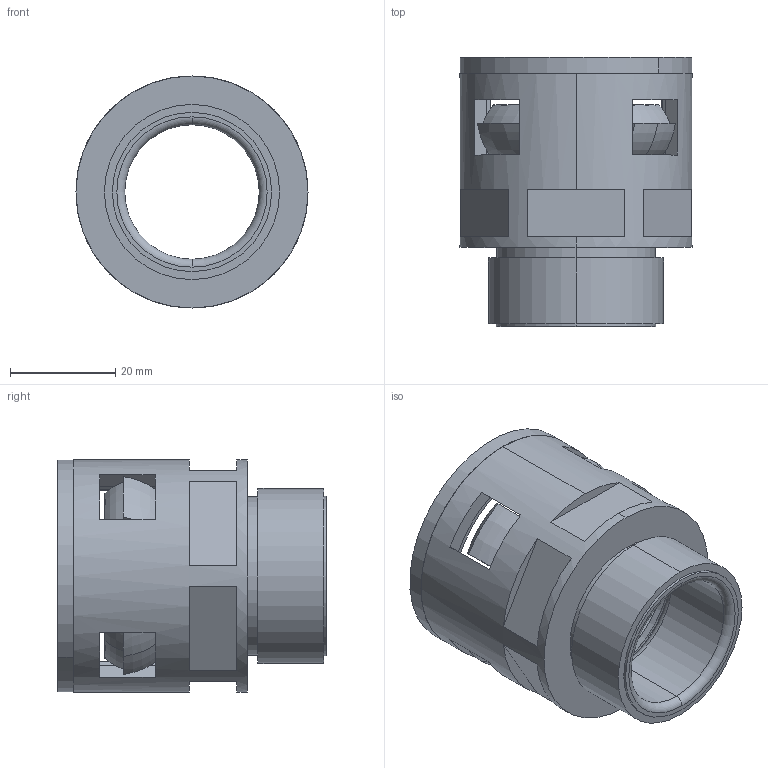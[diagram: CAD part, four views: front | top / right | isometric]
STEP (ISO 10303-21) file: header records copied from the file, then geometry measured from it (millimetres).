
FILE_DESCRIPTION (( 'STEP AP203' ), '1' );
FILE_NAME ('WQG-G1-AD34.5.STEP', '2019-12-17T07:18:20', ( '' ), ( '' ), 'SwSTEP 2.0', 'SolidWorks 2016', '' );
FILE_SCHEMA (( 'CONFIG_CONTROL_DESIGN' ));
Length unit declared in the file: millimetre
Products named in the file (4): GFD-AD34.5; WQG-G1-AD34.5; NSK-AD34.5; WQG-G1-AD34.5-01
Assembly tree (3 placements, depth 2):
  WQG-G1-AD34.5
    WQG-G1-AD34.5-01
    GFD-AD34.5
    NSK-AD34.5
Bounding box: 44 x 51 x 44 mm (x, y, z)
Volume: 23155.4 mm3; surface area: 23395.7 mm2
Topology: 3 solids, 3 shells, 218 faces, 558 edges, 352 vertices
Faces by surface type: plane 110, cone 45, cylinder 36, torus 27
Entity records: 7243 total; most frequent: CARTESIAN_POINT 1342, DIRECTION 1233, ORIENTED_EDGE 1116, EDGE_CURVE 558, AXIS2_PLACEMENT_3D 483, VERTEX_POINT 352, VECTOR 267, LINE 267
